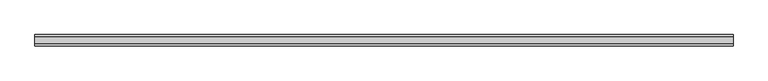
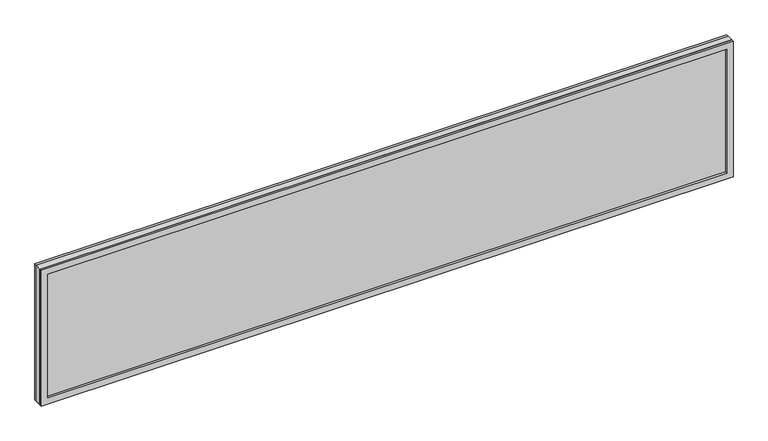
"""IFC4 building model written with IfcOpenShell, lengths in millimetres: plate geometry, ARQ-PA-IN-Vidrio Fijo : ARQ-PA-IN-Vidrio Fijo."""

from ifc_helpers import new_model, si_unit, frame, origin, origin_with_axes, place, context, project, spatial, polyline, outline, extrude, source, transform, mapped, element, save


def plate_3da4a636(model_context):
    return source(origin(), model_context, "Body", "SweptSolid", [
        extrude(outline(polyline([(1085.4599578, 10.0), (1085.4599578, -10.0), (-1085.4599578, -10.0), (-1085.4599578, 10.0), (1085.4599578, 10.0)])), origin_with_axes(), (0.0, 0.0, 1.0), 450.0),
        extrude(outline(polyline([(450.0, -1085.4599578), (0.0, -1085.4599578), (0.0, 1085.4599578), (450.0, 1085.4599578), (450.0, -1085.4599578)]), holes=[polyline([(430.0, -1065.4599578), (430.0, 1065.4599578), (20.0, 1065.4599578), (20.0, -1065.4599578), (430.0, -1065.4599578)])]), frame((0.0, -17.5, 0.0), z_axis=(0.0, 1.0, 0.0), x_axis=(0.0, 0.0, 1.0)), (0.0, 0.0, 1.0), 35.0),
    ])


if __name__ == "__main__":
    model = new_model("IFC4")
    model_context = context("Model", 3, world=origin())
    ifc_project = project(units=[si_unit("LENGTHUNIT", "METRE", prefix="MILLI")], contexts=[model_context])
    site = spatial("IfcSite", under=ifc_project)
    building = spatial("IfcBuilding", under=site)
    placement = place(None, origin())
    plate_shape = plate_3da4a636(model_context)
    element("IfcPlate", 1, ObjectType="ARQ-PA-IN-Vidrio Fijo : ARQ-PA-IN-Vidrio Fijo", at=placement, inside=building, context=model_context, shape_type="MappedRepresentation", body=[
        mapped(plate_shape, transform((0.0, 0.0, 0.0), x_axis=(1.0, 0.0, 0.0), y_axis=(0.0, 1.0, 0.0), z_axis=(0.0, 0.0, 1.0))),
    ])
    save(model, "model.ifc")
